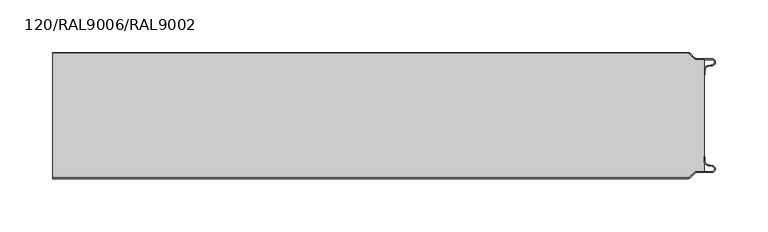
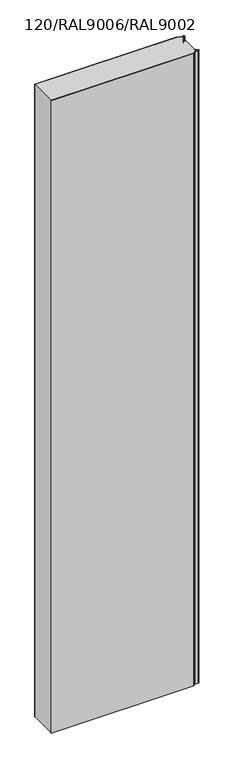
"""IFC4 building model written with IfcOpenShell, lengths in millimetres: plate geometry, TR_C_V_FTV_Panel_cut_TONGUE : 120/RAL9006/RAL9002."""

from ifc_helpers import new_model, si_unit, point, frame_2d, origin, origin_with_axes, place, context, project, spatial, polyline, circle_curve, trimmed, segment, composite_curve, outline, extrude, source, transform, mapped, element, save


def plate_120_ral9006_ral9002_86764c58(model_context):
    return source(origin(), model_context, "Body", "SweptSolid", [
        extrude(outline(composite_curve([segment(polyline([(309.800001, -103.1130328), (309.800001, -99.0), (310.600001, -99.0), (310.600001, -103.1130328)]), True, "CONTINUOUS"), segment(trimmed(circle_curve(frame_2d((314.350001, -103.1130328)), 3.75), [point((310.600001, -103.1130328))], [point((313.6988203, -106.8060618))], True, "CARTESIAN"), True, "CONTINUOUS"), segment(polyline([(313.6988203, -106.8060618), (317.9143576, -107.5493748)]), True, "CONTINUOUS"), segment(trimmed(circle_curve(frame_2d((317.350001, -110.75)), 3.25), [point((317.9143576, -107.5493748))], [point((317.350001, -114.0))], False, "CARTESIAN"), True, "CONTINUOUS"), segment(polyline([(317.350001, -114.0), (302.600001, -114.0)]), True, "CONTINUOUS"), segment(trimmed(circle_curve(frame_2d((302.600001, -116.5)), 2.5), [point((302.600001, -114.0))], [point((300.8322341, -114.732233))], True, "CARTESIAN"), True, "CONTINUOUS"), segment(polyline([(300.8322341, -114.732233), (296.4431468, -119.1213203)]), True, "CONTINUOUS"), segment(trimmed(circle_curve(frame_2d((294.3218264, -117.0)), 3.0), [point((296.4431468, -119.1213203))], [point((294.3218264, -120.0))], False, "CARTESIAN"), True, "CONTINUOUS"), segment(polyline([(294.3218264, -120.0), (-309.9999998, -120.0), (-309.9999998, -119.2), (294.3218264, -119.2)]), True, "CONTINUOUS"), segment(trimmed(circle_curve(frame_2d((294.3218264, -117.0)), 2.2), [point((294.3218264, -119.2))], [point((295.8774613, -118.5556349))], True, "CARTESIAN"), True, "CONTINUOUS"), segment(polyline([(295.8774613, -118.5556349), (300.2665486, -114.1665476)]), True, "CONTINUOUS"), segment(trimmed(circle_curve(frame_2d((302.600001, -116.5)), 3.3), [point((300.2665486, -114.1665476))], [point((302.600001, -113.2))], False, "CARTESIAN"), True, "CONTINUOUS"), segment(polyline([(302.600001, -113.2), (317.350001, -113.2)]), True, "CONTINUOUS"), segment(trimmed(circle_curve(frame_2d((317.350001, -110.75)), 2.45), [point((317.350001, -113.2))], [point((317.775439, -108.337221))], True, "CARTESIAN"), True, "CONTINUOUS"), segment(polyline([(317.775439, -108.337221), (313.5599018, -107.5939081)]), True, "CONTINUOUS"), segment(trimmed(circle_curve(frame_2d((314.350001, -103.1130328)), 4.55), [point((313.5599018, -107.5939081))], [point((309.800001, -103.1130328))], False, "CARTESIAN"), True, "CONTINUOUS")], self_intersect=False)), origin_with_axes(), (0.0, 0.0, 1.0), 2830.0),
        extrude(outline(composite_curve([segment(trimmed(circle_curve(frame_2d((294.3218264, -3.0)), 2.2), [point((294.3218264, -0.8))], [point((295.8774613, -1.4443651))], False, "CARTESIAN"), True, "CONTINUOUS"), segment(polyline([(295.8774613, -1.4443651), (300.2665486, -5.8334524)]), True, "CONTINUOUS"), segment(trimmed(circle_curve(frame_2d((302.600001, -3.5)), 3.3), [point((300.2665486, -5.8334524))], [point((302.600001, -6.8))], True, "CARTESIAN"), True, "CONTINUOUS"), segment(polyline([(302.600001, -6.8), (309.9999998, -6.8), (309.9999998, -113.2), (302.600001, -113.2)]), True, "CONTINUOUS"), segment(trimmed(circle_curve(frame_2d((302.600001, -116.5)), 3.3), [point((302.600001, -113.2))], [point((300.2665486, -114.1665476))], True, "CARTESIAN"), True, "CONTINUOUS"), segment(polyline([(300.2665486, -114.1665476), (295.8774613, -118.5556349)]), True, "CONTINUOUS"), segment(trimmed(circle_curve(frame_2d((294.3218264, -117.0)), 2.2), [point((295.8774613, -118.5556349))], [point((294.3218264, -119.2))], False, "CARTESIAN"), True, "CONTINUOUS"), segment(polyline([(294.3218264, -119.2), (-309.9999998, -119.2), (-309.9999998, -0.8), (294.3218264, -0.8)]), True, "CONTINUOUS")], self_intersect=False)), origin_with_axes(), (0.0, 0.0, 1.0), 2830.0),
        extrude(outline(composite_curve([segment(trimmed(circle_curve(frame_2d((314.350001, -16.8869672)), 4.55), [point((309.800001, -16.8869672))], [point((313.5599018, -12.4060919))], False, "CARTESIAN"), True, "CONTINUOUS"), segment(polyline([(313.5599018, -12.4060919), (317.775439, -11.662779)]), True, "CONTINUOUS"), segment(trimmed(circle_curve(frame_2d((317.350001, -9.25)), 2.45), [point((317.775439, -11.662779))], [point((317.350001, -6.8))], True, "CARTESIAN"), True, "CONTINUOUS"), segment(polyline([(317.350001, -6.8), (302.600001, -6.8)]), True, "CONTINUOUS"), segment(trimmed(circle_curve(frame_2d((302.600001, -3.5)), 3.3), [point((302.600001, -6.8))], [point((300.2665486, -5.8334524))], False, "CARTESIAN"), True, "CONTINUOUS"), segment(polyline([(300.2665486, -5.8334524), (295.8774613, -1.4443651)]), True, "CONTINUOUS"), segment(trimmed(circle_curve(frame_2d((294.3218264, -3.0)), 2.2), [point((295.8774613, -1.4443651))], [point((294.3218264, -0.8))], True, "CARTESIAN"), True, "CONTINUOUS"), segment(polyline([(294.3218264, -0.8), (-309.9999998, -0.8), (-309.9999998, 0.0), (294.3218264, 0.0)]), True, "CONTINUOUS"), segment(trimmed(circle_curve(frame_2d((294.3218264, -3.0)), 3.0), [point((294.3218264, 0.0))], [point((296.4431468, -0.8786797))], False, "CARTESIAN"), True, "CONTINUOUS"), segment(polyline([(296.4431468, -0.8786797), (300.8322341, -5.267767)]), True, "CONTINUOUS"), segment(trimmed(circle_curve(frame_2d((302.600001, -3.5)), 2.5), [point((300.8322341, -5.267767))], [point((302.600001, -6.0))], True, "CARTESIAN"), True, "CONTINUOUS"), segment(polyline([(302.600001, -6.0), (317.350001, -6.0)]), True, "CONTINUOUS"), segment(trimmed(circle_curve(frame_2d((317.350001, -9.25)), 3.25), [point((317.350001, -6.0))], [point((317.9143576, -12.4506252))], False, "CARTESIAN"), True, "CONTINUOUS"), segment(polyline([(317.9143576, -12.4506252), (313.6988203, -13.1939382)]), True, "CONTINUOUS"), segment(trimmed(circle_curve(frame_2d((314.350001, -16.8869672)), 3.75), [point((313.6988203, -13.1939382))], [point((310.600001, -16.8869672))], True, "CARTESIAN"), True, "CONTINUOUS"), segment(polyline([(310.600001, -16.8869672), (310.600001, -21.0), (309.800001, -21.0), (309.800001, -16.8869672)]), True, "CONTINUOUS")], self_intersect=False)), origin_with_axes(), (0.0, 0.0, 1.0), 2830.0),
    ])


if __name__ == "__main__":
    model = new_model("IFC4")
    model_context = context("Model", 3, world=origin())
    ifc_project = project(units=[si_unit("LENGTHUNIT", "METRE", prefix="MILLI")], contexts=[model_context])
    site = spatial("IfcSite", under=ifc_project)
    building = spatial("IfcBuilding", under=site)
    placement = place(None, origin())
    plate_120_ral9006_ral9002_shape = plate_120_ral9006_ral9002_86764c58(model_context)
    element("IfcPlate", 1, ObjectType="TR_C_V_FTV_Panel_cut_TONGUE : 120/RAL9006/RAL9002", at=placement, inside=building, context=model_context, shape_type="MappedRepresentation", body=[
        mapped(plate_120_ral9006_ral9002_shape, transform((0.0, 0.0, 0.0), x_axis=(1.0, 0.0, 0.0), y_axis=(0.0, 1.0, 0.0), z_axis=(0.0, 0.0, 1.0))),
    ])
    save(model, "model.ifc")
